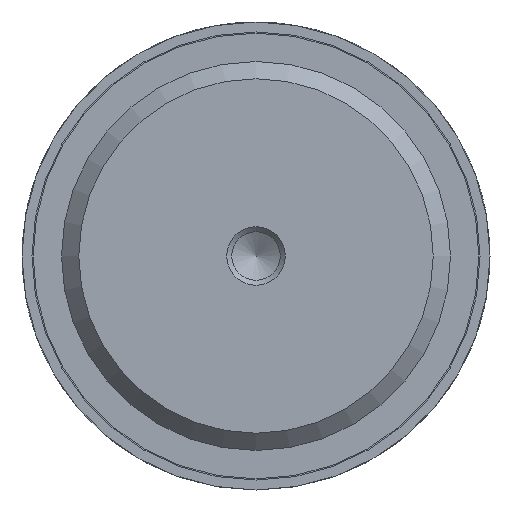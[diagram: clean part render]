
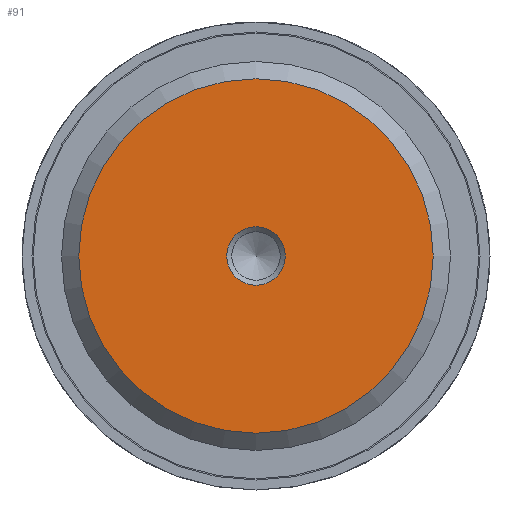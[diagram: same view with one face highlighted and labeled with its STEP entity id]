
A CAD part, front view. The second image highlights one B-rep face of the part: STEP entity #91.
In plain terms, the highlighted planar face has unit normal (0, -1, 0).
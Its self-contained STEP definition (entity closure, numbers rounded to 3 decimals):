
#91 = ADVANCED_FACE( '', ( #143, #144 ), #145, .F. );
#143 = FACE_BOUND( '', #210, .T. );
#144 = FACE_OUTER_BOUND( '', #211, .T. );
#145 = PLANE( '', #212 );
#210 = EDGE_LOOP( '', ( #344 ) );
#211 = EDGE_LOOP( '', ( #345 ) );
#212 = AXIS2_PLACEMENT_3D( '', #346, #347, #348 );
#344 = ORIENTED_EDGE( '', *, *, #440, .F. );
#345 = ORIENTED_EDGE( '', *, *, #444, .T. );
#346 = CARTESIAN_POINT( '', ( 15.146, 0., 0. ) );
#347 = DIRECTION( '', ( 0., 1., 0. ) );
#348 = DIRECTION( '', ( 0., 0., 1. ) );
#440 = EDGE_CURVE( '', #532, #532, #533, .T. );
#444 = EDGE_CURVE( '', #538, #538, #539, .T. );
#532 = VERTEX_POINT( '', #727 );
#533 = CIRCLE( '', #728, 2.5 );
#538 = VERTEX_POINT( '', #733 );
#539 = CIRCLE( '', #734, 15.146 );
#727 = CARTESIAN_POINT( '', ( 2.5, 0., 0. ) );
#728 = AXIS2_PLACEMENT_3D( '', #823, #824, #825 );
#733 = CARTESIAN_POINT( '', ( 0., 0., -15.146 ) );
#734 = AXIS2_PLACEMENT_3D( '', #832, #833, #834 );
#823 = CARTESIAN_POINT( '', ( 0., 0., 0. ) );
#824 = DIRECTION( '', ( 0., -1., 0. ) );
#825 = DIRECTION( '', ( 1., 0., 0. ) );
#832 = CARTESIAN_POINT( '', ( 0., 0., 0. ) );
#833 = DIRECTION( '', ( 0., -1., 0. ) );
#834 = DIRECTION( '', ( 0., 0., -1. ) );
